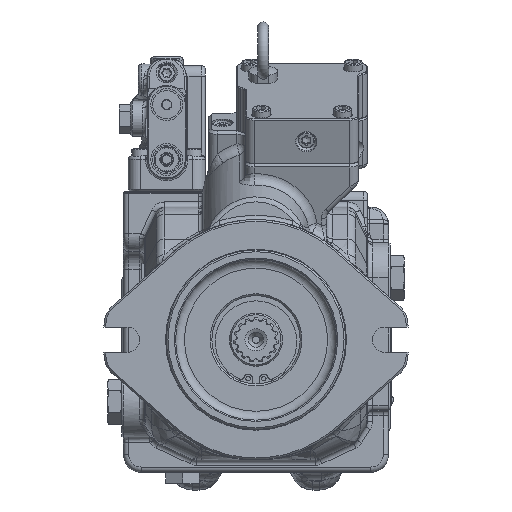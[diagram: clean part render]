
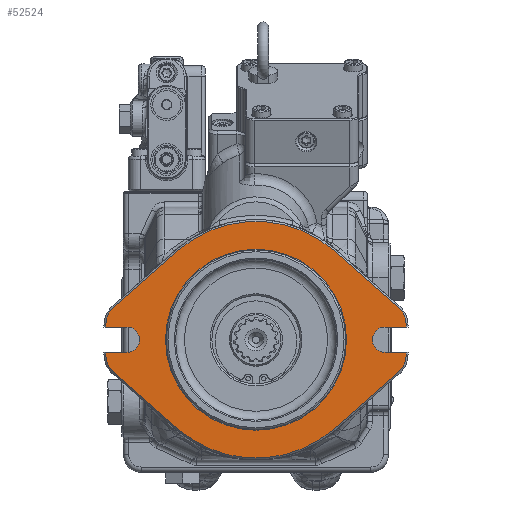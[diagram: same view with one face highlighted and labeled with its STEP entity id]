
A CAD part, front view. The second image highlights one B-rep face of the part: STEP entity #52524.
In plain terms, the highlighted planar face has unit normal (0, -1, 0).
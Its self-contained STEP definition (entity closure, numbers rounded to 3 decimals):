
#3671=FACE_BOUND('',#10440,.T.);
#4717=PLANE('',#56883);
#7141=FACE_OUTER_BOUND('',#10439,.T.);
#10439=EDGE_LOOP('',(#44700,#44701,#44702,#44703,#44704,#44705,#44706,#44707,
#44708,#44709,#44710,#44711,#44712,#44713,#44714,#44715,#44716,#44717,#44718,
#44719));
#10440=EDGE_LOOP('',(#44720));
#13939=LINE('',#92129,#17750);
#13945=LINE('',#92141,#17756);
#13948=LINE('',#92150,#17759);
#14356=LINE('',#99575,#18167);
#14359=LINE('',#99582,#18170);
#14367=LINE('',#99603,#18178);
#14368=LINE('',#99605,#18179);
#14369=LINE('',#99607,#18180);
#14370=LINE('',#99611,#18181);
#14371=LINE('',#99612,#18182);
#14372=LINE('',#99614,#18183);
#14373=LINE('',#99616,#18184);
#17750=VECTOR('',#65921,10.);
#17756=VECTOR('',#65933,10.);
#17759=VECTOR('',#65942,10.);
#18167=VECTOR('',#68104,10.);
#18170=VECTOR('',#68113,10.);
#18178=VECTOR('',#68135,10.);
#18179=VECTOR('',#68136,10.);
#18180=VECTOR('',#68137,10.);
#18181=VECTOR('',#68140,10.);
#18182=VECTOR('',#68141,10.);
#18183=VECTOR('',#68142,10.);
#18184=VECTOR('',#68143,10.);
#20141=CIRCLE('',#55988,67.);
#20143=CIRCLE('',#55992,14.);
#20144=CIRCLE('',#55995,14.);
#20597=CIRCLE('',#56870,14.);
#20598=CIRCLE('',#56872,14.);
#20599=CIRCLE('',#56875,67.);
#20602=CIRCLE('',#56884,7.15);
#20603=CIRCLE('',#56885,7.15);
#20604=CIRCLE('',#56886,51.2);
#24087=VERTEX_POINT('',#92119);
#24088=VERTEX_POINT('',#92120);
#24091=VERTEX_POINT('',#92128);
#24092=VERTEX_POINT('',#92133);
#24093=VERTEX_POINT('',#92137);
#24095=VERTEX_POINT('',#92143);
#24096=VERTEX_POINT('',#92144);
#24097=VERTEX_POINT('',#92149);
#24767=VERTEX_POINT('',#99564);
#24768=VERTEX_POINT('',#99568);
#24769=VERTEX_POINT('',#99569);
#24770=VERTEX_POINT('',#99574);
#24771=VERTEX_POINT('',#99578);
#24777=VERTEX_POINT('',#99602);
#24778=VERTEX_POINT('',#99604);
#24779=VERTEX_POINT('',#99606);
#24780=VERTEX_POINT('',#99608);
#24781=VERTEX_POINT('',#99610);
#24782=VERTEX_POINT('',#99613);
#24783=VERTEX_POINT('',#99615);
#24784=VERTEX_POINT('',#99618);
#30476=EDGE_CURVE('',#24087,#24088,#20141,.T.);
#30480=EDGE_CURVE('',#24088,#24091,#13939,.T.);
#30483=EDGE_CURVE('',#24091,#24092,#20143,.T.);
#30487=EDGE_CURVE('',#24092,#24093,#13945,.T.);
#30488=EDGE_CURVE('',#24095,#24096,#20144,.T.);
#30491=EDGE_CURVE('',#24097,#24087,#13948,.T.);
#31665=EDGE_CURVE('',#24767,#24097,#20597,.T.);
#31667=EDGE_CURVE('',#24768,#24769,#20598,.T.);
#31670=EDGE_CURVE('',#24770,#24768,#14356,.T.);
#31672=EDGE_CURVE('',#24771,#24770,#20599,.T.);
#31674=EDGE_CURVE('',#24096,#24771,#14359,.T.);
#31684=EDGE_CURVE('',#24777,#24093,#14367,.T.);
#31685=EDGE_CURVE('',#24778,#24767,#14368,.T.);
#31686=EDGE_CURVE('',#24778,#24779,#14369,.T.);
#31687=EDGE_CURVE('',#24779,#24780,#20602,.T.);
#31688=EDGE_CURVE('',#24780,#24781,#14370,.T.);
#31689=EDGE_CURVE('',#24769,#24781,#14371,.T.);
#31690=EDGE_CURVE('',#24782,#24095,#14372,.T.);
#31691=EDGE_CURVE('',#24782,#24783,#14373,.T.);
#31692=EDGE_CURVE('',#24783,#24777,#20603,.T.);
#31693=EDGE_CURVE('',#24784,#24784,#20604,.T.);
#44700=ORIENTED_EDGE('',*,*,#31684,.T.);
#44701=ORIENTED_EDGE('',*,*,#30487,.F.);
#44702=ORIENTED_EDGE('',*,*,#30483,.F.);
#44703=ORIENTED_EDGE('',*,*,#30480,.F.);
#44704=ORIENTED_EDGE('',*,*,#30476,.F.);
#44705=ORIENTED_EDGE('',*,*,#30491,.F.);
#44706=ORIENTED_EDGE('',*,*,#31665,.F.);
#44707=ORIENTED_EDGE('',*,*,#31685,.F.);
#44708=ORIENTED_EDGE('',*,*,#31686,.T.);
#44709=ORIENTED_EDGE('',*,*,#31687,.T.);
#44710=ORIENTED_EDGE('',*,*,#31688,.T.);
#44711=ORIENTED_EDGE('',*,*,#31689,.F.);
#44712=ORIENTED_EDGE('',*,*,#31667,.F.);
#44713=ORIENTED_EDGE('',*,*,#31670,.F.);
#44714=ORIENTED_EDGE('',*,*,#31672,.F.);
#44715=ORIENTED_EDGE('',*,*,#31674,.F.);
#44716=ORIENTED_EDGE('',*,*,#30488,.F.);
#44717=ORIENTED_EDGE('',*,*,#31690,.F.);
#44718=ORIENTED_EDGE('',*,*,#31691,.T.);
#44719=ORIENTED_EDGE('',*,*,#31692,.T.);
#44720=ORIENTED_EDGE('',*,*,#31693,.F.);
#52524=ADVANCED_FACE('',(#7141,#3671),#4717,.F.);
#55988=AXIS2_PLACEMENT_3D('',#92121,#65913,#65914);
#55992=AXIS2_PLACEMENT_3D('',#92134,#65926,#65927);
#55995=AXIS2_PLACEMENT_3D('',#92145,#65936,#65937);
#56870=AXIS2_PLACEMENT_3D('',#99565,#68093,#68094);
#56872=AXIS2_PLACEMENT_3D('',#99570,#68098,#68099);
#56875=AXIS2_PLACEMENT_3D('',#99579,#68108,#68109);
#56883=AXIS2_PLACEMENT_3D('',#99601,#68133,#68134);
#56884=AXIS2_PLACEMENT_3D('',#99609,#68138,#68139);
#56885=AXIS2_PLACEMENT_3D('',#99617,#68144,#68145);
#56886=AXIS2_PLACEMENT_3D('',#99619,#68146,#68147);
#65913=DIRECTION('center_axis',(0.,1.,0.));
#65914=DIRECTION('ref_axis',(0.,0.,1.));
#65921=DIRECTION('',(0.752,0.,-0.66));
#65926=DIRECTION('center_axis',(0.,1.,0.));
#65927=DIRECTION('ref_axis',(0.911,0.,0.413));
#65933=DIRECTION('',(0.,0.,-1.));
#65936=DIRECTION('center_axis',(0.,1.,0.));
#65937=DIRECTION('ref_axis',(0.911,0.,-0.413));
#65942=DIRECTION('',(0.752,0.,0.66));
#68093=DIRECTION('center_axis',(0.,1.,0.));
#68094=DIRECTION('ref_axis',(-0.911,0.,0.413));
#68098=DIRECTION('center_axis',(0.,1.,0.));
#68099=DIRECTION('ref_axis',(-0.911,0.,-0.413));
#68104=DIRECTION('',(-0.752,0.,0.66));
#68108=DIRECTION('center_axis',(0.,1.,0.));
#68109=DIRECTION('ref_axis',(0.,0.,-1.));
#68113=DIRECTION('',(-0.752,0.,-0.66));
#68133=DIRECTION('center_axis',(0.,1.,0.));
#68134=DIRECTION('ref_axis',(0.,0.,1.));
#68135=DIRECTION('',(1.,0.,0.));
#68136=DIRECTION('',(0.,0.,1.));
#68137=DIRECTION('',(1.,0.,0.));
#68138=DIRECTION('center_axis',(0.,1.,0.));
#68139=DIRECTION('ref_axis',(0.,0.,-1.));
#68140=DIRECTION('',(-1.,0.,0.));
#68141=DIRECTION('',(0.,0.,1.));
#68142=DIRECTION('',(0.,0.,-1.));
#68143=DIRECTION('',(-1.,0.,0.));
#68144=DIRECTION('center_axis',(0.,1.,0.));
#68145=DIRECTION('ref_axis',(0.,0.,1.));
#68146=DIRECTION('center_axis',(0.,-1.,0.));
#68147=DIRECTION('ref_axis',(0.,0.,-1.));
#92119=CARTESIAN_POINT('',(-44.193,0.,50.358));
#92120=CARTESIAN_POINT('',(44.193,0.,50.358));
#92121=CARTESIAN_POINT('Origin',(0.,0.,0.));
#92128=CARTESIAN_POINT('',(80.234,0.,18.729));
#92129=CARTESIAN_POINT('',(24.466,0.,67.67));
#92133=CARTESIAN_POINT('',(85.,0.,8.207));
#92134=CARTESIAN_POINT('Origin',(71.,0.,8.207));
#92137=CARTESIAN_POINT('',(85.,0.,7.15));
#92141=CARTESIAN_POINT('',(85.,0.,56.791));
#92143=CARTESIAN_POINT('',(85.,0.,-8.207));
#92144=CARTESIAN_POINT('',(80.234,0.,-18.729));
#92145=CARTESIAN_POINT('Origin',(71.,0.,-8.207));
#92149=CARTESIAN_POINT('',(-80.234,0.,18.729));
#92150=CARTESIAN_POINT('',(-14.179,0.,76.698));
#99564=CARTESIAN_POINT('',(-85.,0.,8.207));
#99565=CARTESIAN_POINT('Origin',(-71.,0.,8.207));
#99568=CARTESIAN_POINT('',(-80.234,0.,-18.729));
#99569=CARTESIAN_POINT('',(-85.,0.,-8.207));
#99570=CARTESIAN_POINT('Origin',(-71.,0.,-8.207));
#99574=CARTESIAN_POINT('',(-44.193,0.,-50.358));
#99575=CARTESIAN_POINT('',(-84.494,0.,-14.991));
#99578=CARTESIAN_POINT('',(44.193,0.,-50.358));
#99579=CARTESIAN_POINT('Origin',(0.,0.,0.));
#99582=CARTESIAN_POINT('',(74.207,0.,-24.018));
#99601=CARTESIAN_POINT('Origin',(0.,0.,90.581));
#99602=CARTESIAN_POINT('',(73.,0.,7.15));
#99603=CARTESIAN_POINT('',(59.698,0.,7.15));
#99604=CARTESIAN_POINT('',(-85.,0.,7.15));
#99605=CARTESIAN_POINT('',(-85.,0.,64.291));
#99606=CARTESIAN_POINT('',(-73.,0.,7.15));
#99607=CARTESIAN_POINT('',(-36.5,0.,7.15));
#99608=CARTESIAN_POINT('',(-73.,0.,-7.15));
#99609=CARTESIAN_POINT('Origin',(-73.,0.,0.));
#99610=CARTESIAN_POINT('',(-85.,0.,-7.15));
#99611=CARTESIAN_POINT('',(-51.803,0.,-7.15));
#99612=CARTESIAN_POINT('',(-85.,0.,64.291));
#99613=CARTESIAN_POINT('',(85.,0.,-7.15));
#99614=CARTESIAN_POINT('',(85.,0.,56.791));
#99615=CARTESIAN_POINT('',(73.,0.,-7.15));
#99616=CARTESIAN_POINT('',(36.5,0.,-7.15));
#99617=CARTESIAN_POINT('Origin',(73.,0.,0.));
#99618=CARTESIAN_POINT('',(0.,0.,51.2));
#99619=CARTESIAN_POINT('Origin',(0.,0.,0.));
